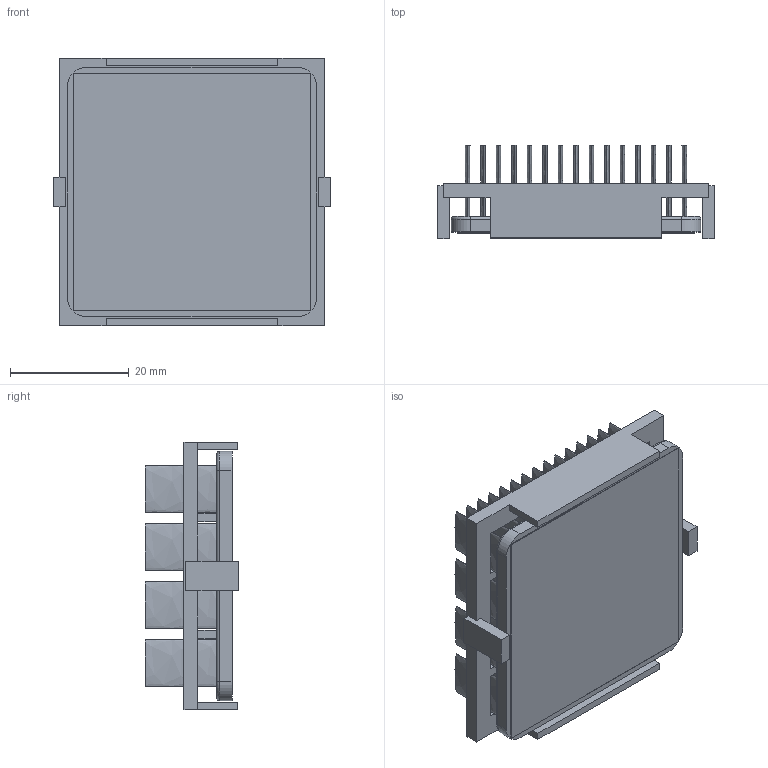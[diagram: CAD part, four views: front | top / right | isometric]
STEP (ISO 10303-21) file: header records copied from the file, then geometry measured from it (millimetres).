
FILE_DESCRIPTION (( 'STEP AP214' ), '1' );
FILE_NAME ('INM42.5001-15W-2.6O.STEP', '2023-02-28T00:09:42', ( '' ), ( '' ), 'SwSTEP 2.0', 'SolidWorks 2020', '' );
FILE_SCHEMA (( 'AUTOMOTIVE_DESIGN' ));
Length unit declared in the file: inch
Products named in the file (1): INM42.5001-15W-2.6O
Bounding box: 46.7 x 15.7 x 45.1 mm (x, y, z)
Volume: 10639.1 mm3; surface area: 21958.5 mm2
Topology: 3 solids, 3 shells, 258 faces, 568 edges, 376 vertices
Faces by surface type: plane 126, bspline 120, cylinder 8, torus 4
Entity records: 10728 total; most frequent: CARTESIAN_POINT 2763, ORIENTED_EDGE 1136, DIRECTION 626, EDGE_CURVE 568, VERTEX_POINT 376, EDGE_LOOP 320, VECTOR 308, LINE 308
